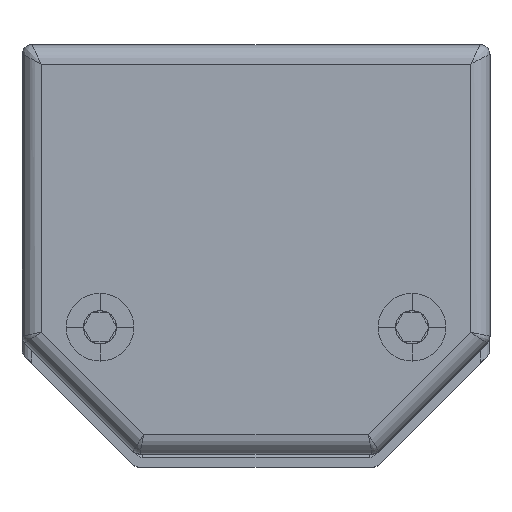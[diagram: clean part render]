
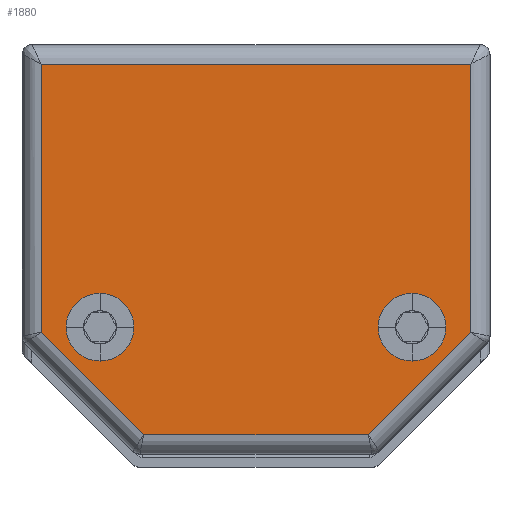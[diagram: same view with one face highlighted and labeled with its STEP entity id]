
A CAD part, top view. The second image highlights one B-rep face of the part: STEP entity #1880.
In plain terms, the highlighted planar face has unit normal (0, 0, 1).
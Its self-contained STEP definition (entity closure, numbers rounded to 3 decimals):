
#42 = CARTESIAN_POINT ( 'NONE',  ( 0., 0., 8. ) ) ;
#492 = DIRECTION ( 'NONE',  ( 1., 0., 0. ) ) ;
#708 = EDGE_CURVE ( 'NONE', #2112, #6703, #4308, .T. ) ;
#867 = ORIENTED_EDGE ( 'NONE', *, *, #13349, .F. ) ;
#980 = VERTEX_POINT ( 'NONE', #10606 ) ;
#1199 = LINE ( 'NONE', #14702, #6637 ) ;
#1362 = VECTOR ( 'NONE', #12089, 1000. ) ;
#1777 = VERTEX_POINT ( 'NONE', #3726 ) ;
#1822 = CARTESIAN_POINT ( 'NONE',  ( 16., -27., 8. ) ) ;
#1880 = ADVANCED_FACE ( 'NONE', ( #7256, #4792, #6195 ), #2499, .T. ) ;
#1897 = DIRECTION ( 'NONE',  ( 0., 0., 1. ) ) ;
#1941 = EDGE_LOOP ( 'NONE', ( #4120, #11392, #2679, #9214, #4566, #15367 ) ) ;
#2091 = VERTEX_POINT ( 'NONE', #14489 ) ;
#2112 = VERTEX_POINT ( 'NONE', #3444 ) ;
#2131 = AXIS2_PLACEMENT_3D ( 'NONE', #5539, #10501, #13208 ) ;
#2340 = DIRECTION ( 'NONE',  ( 1., 0., 0. ) ) ;
#2499 = PLANE ( 'NONE',  #15815 ) ;
#2642 = AXIS2_PLACEMENT_3D ( 'NONE', #10571, #11712, #11551 ) ;
#2679 = ORIENTED_EDGE ( 'NONE', *, *, #14753, .T. ) ;
#2863 = CARTESIAN_POINT ( 'NONE',  ( -12.53, -27., 8. ) ) ;
#3078 = CARTESIAN_POINT ( 'NONE',  ( 11.5, -38., 8. ) ) ;
#3351 = CARTESIAN_POINT ( 'NONE',  ( -19.47, -27., 8. ) ) ;
#3444 = CARTESIAN_POINT ( 'NONE',  ( 12.53, -27., 8. ) ) ;
#3726 = CARTESIAN_POINT ( 'NONE',  ( 22., -27.5, 8. ) ) ;
#3786 = EDGE_CURVE ( 'NONE', #5223, #12402, #8079, .T. ) ;
#3895 = CIRCLE ( 'NONE', #14607, 3.47 ) ;
#3950 = CIRCLE ( 'NONE', #2642, 3.47 ) ;
#3955 = EDGE_CURVE ( 'NONE', #1777, #6077, #8237, .T. ) ;
#4004 = LINE ( 'NONE', #10355, #11644 ) ;
#4110 = CARTESIAN_POINT ( 'NONE',  ( -22., 0., 8. ) ) ;
#4120 = ORIENTED_EDGE ( 'NONE', *, *, #14186, .T. ) ;
#4308 = CIRCLE ( 'NONE', #7188, 3.47 ) ;
#4383 = VECTOR ( 'NONE', #8393, 1000. ) ;
#4566 = ORIENTED_EDGE ( 'NONE', *, *, #8391, .T. ) ;
#4792 = FACE_BOUND ( 'NONE', #9613, .T. ) ;
#5045 = CARTESIAN_POINT ( 'NONE',  ( 22., 0., 8. ) ) ;
#5223 = VERTEX_POINT ( 'NONE', #6549 ) ;
#5539 = CARTESIAN_POINT ( 'NONE',  ( 16., -27., 8. ) ) ;
#6077 = VERTEX_POINT ( 'NONE', #5045 ) ;
#6195 = FACE_BOUND ( 'NONE', #16189, .T. ) ;
#6549 = CARTESIAN_POINT ( 'NONE',  ( -11.5, -38., 8. ) ) ;
#6637 = VECTOR ( 'NONE', #15026, 1000. ) ;
#6689 = ORIENTED_EDGE ( 'NONE', *, *, #10466, .F. ) ;
#6703 = VERTEX_POINT ( 'NONE', #8206 ) ;
#6729 = CARTESIAN_POINT ( 'NONE',  ( -16., -27., 8. ) ) ;
#6751 = VECTOR ( 'NONE', #14134, 1000. ) ;
#6890 = LINE ( 'NONE', #13081, #1362 ) ;
#7188 = AXIS2_PLACEMENT_3D ( 'NONE', #1822, #1897, #8036 ) ;
#7256 = FACE_OUTER_BOUND ( 'NONE', #1941, .T. ) ;
#7392 = EDGE_CURVE ( 'NONE', #6703, #2112, #10214, .T. ) ;
#8036 = DIRECTION ( 'NONE',  ( 1., 0., 0. ) ) ;
#8079 = LINE ( 'NONE', #14298, #6751 ) ;
#8094 = DIRECTION ( 'NONE',  ( 0.707, -0.707, 0. ) ) ;
#8206 = CARTESIAN_POINT ( 'NONE',  ( 19.47, -27., 8. ) ) ;
#8237 = LINE ( 'NONE', #15771, #4383 ) ;
#8391 = EDGE_CURVE ( 'NONE', #980, #5223, #4004, .T. ) ;
#8393 = DIRECTION ( 'NONE',  ( 0., 1., 0. ) ) ;
#8577 = ORIENTED_EDGE ( 'NONE', *, *, #708, .F. ) ;
#9214 = ORIENTED_EDGE ( 'NONE', *, *, #13876, .T. ) ;
#9254 = DIRECTION ( 'NONE',  ( 0., -1., 0. ) ) ;
#9613 = EDGE_LOOP ( 'NONE', ( #867, #6689 ) ) ;
#9764 = DIRECTION ( 'NONE',  ( 0., 0., 1. ) ) ;
#10214 = CIRCLE ( 'NONE', #2131, 3.47 ) ;
#10355 = CARTESIAN_POINT ( 'NONE',  ( -24.75, -24.75, 8. ) ) ;
#10466 = EDGE_CURVE ( 'NONE', #14307, #16041, #3895, .T. ) ;
#10473 = LINE ( 'NONE', #4110, #14667 ) ;
#10501 = DIRECTION ( 'NONE',  ( 0., 0., 1. ) ) ;
#10571 = CARTESIAN_POINT ( 'NONE',  ( -16., -27., 8. ) ) ;
#10606 = CARTESIAN_POINT ( 'NONE',  ( -22., -27.5, 8. ) ) ;
#11392 = ORIENTED_EDGE ( 'NONE', *, *, #3955, .T. ) ;
#11551 = DIRECTION ( 'NONE',  ( 1., 0., 0. ) ) ;
#11644 = VECTOR ( 'NONE', #8094, 1000. ) ;
#11712 = DIRECTION ( 'NONE',  ( 0., 0., 1. ) ) ;
#12089 = DIRECTION ( 'NONE',  ( 0.707, 0.707, 0. ) ) ;
#12402 = VERTEX_POINT ( 'NONE', #3078 ) ;
#13081 = CARTESIAN_POINT ( 'NONE',  ( 24.75, -24.75, 8. ) ) ;
#13208 = DIRECTION ( 'NONE',  ( 1., 0., 0. ) ) ;
#13349 = EDGE_CURVE ( 'NONE', #16041, #14307, #3950, .T. ) ;
#13876 = EDGE_CURVE ( 'NONE', #2091, #980, #10473, .T. ) ;
#14134 = DIRECTION ( 'NONE',  ( 1., 0., 0. ) ) ;
#14186 = EDGE_CURVE ( 'NONE', #12402, #1777, #6890, .T. ) ;
#14298 = CARTESIAN_POINT ( 'NONE',  ( 0., -38., 8. ) ) ;
#14307 = VERTEX_POINT ( 'NONE', #3351 ) ;
#14489 = CARTESIAN_POINT ( 'NONE',  ( -22., 0., 8. ) ) ;
#14607 = AXIS2_PLACEMENT_3D ( 'NONE', #6729, #15228, #492 ) ;
#14667 = VECTOR ( 'NONE', #9254, 1000. ) ;
#14702 = CARTESIAN_POINT ( 'NONE',  ( 0., 0., 8. ) ) ;
#14753 = EDGE_CURVE ( 'NONE', #6077, #2091, #1199, .T. ) ;
#14795 = ORIENTED_EDGE ( 'NONE', *, *, #7392, .F. ) ;
#15026 = DIRECTION ( 'NONE',  ( -1., 0., 0. ) ) ;
#15228 = DIRECTION ( 'NONE',  ( 0., 0., 1. ) ) ;
#15367 = ORIENTED_EDGE ( 'NONE', *, *, #3786, .T. ) ;
#15771 = CARTESIAN_POINT ( 'NONE',  ( 22., 0., 8. ) ) ;
#15815 = AXIS2_PLACEMENT_3D ( 'NONE', #42, #9764, #2340 ) ;
#16041 = VERTEX_POINT ( 'NONE', #2863 ) ;
#16189 = EDGE_LOOP ( 'NONE', ( #14795, #8577 ) ) ;
